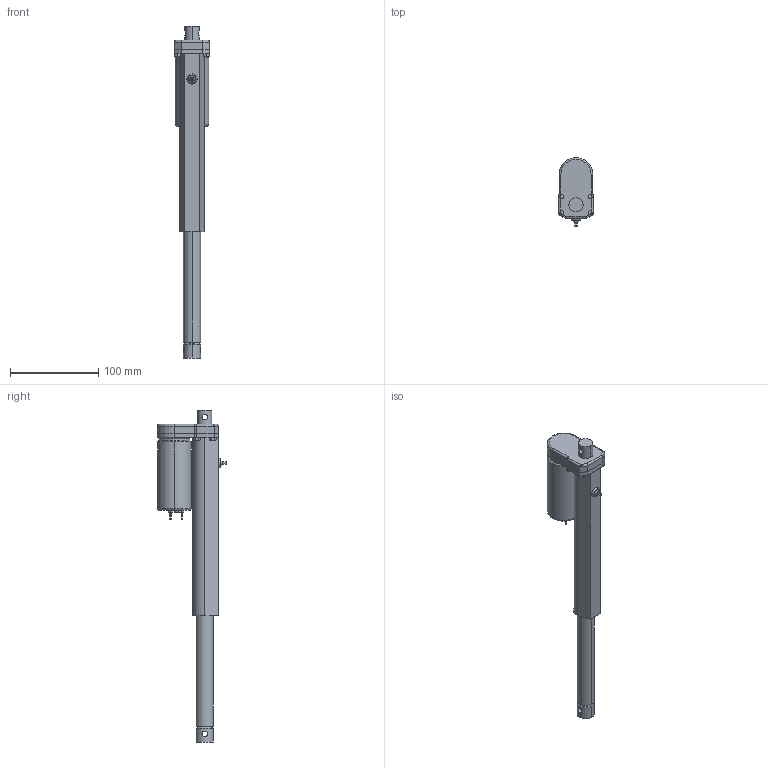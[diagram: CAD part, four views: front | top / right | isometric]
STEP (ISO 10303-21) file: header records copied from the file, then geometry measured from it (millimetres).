
FILE_DESCRIPTION (( 'STEP AP203' ), '1' );
FILE_NAME ('Electrak-LA1-S-05-Tollo.step', '2004-05-12T12:42:33', ( 'Jimmy Richardsson' ), ( 'Cevican AB' ), 'SwSTEP 2.0', 'SolidWorks 2002308', '' );
FILE_SCHEMA (( 'CONFIG_CONTROL_DESIGN' ));
Length unit declared in the file: millimetre
Products named in the file (7): Electrak-LA1-S-05-Tollo; Electrak-LA1-S-House-Tollo_Electrak-LA1-S-House-05-Tollo; Electrak-LA1-S-Rear-Tollo_Electrak-Cover-Tube-Tollo; Electrak-LA1-S-Motor-Tollo_Electrak-Cover-Tube-Tollo; Electrak-LA1-S-Tube-Tollo_Electrak-LA1-S-Tube-05-Tollo; Screw-M6S-M4_Screw-M6S-M4x12H; Electrak-LA1-S-Rod-Tollo_Electrak-LA1-S-Rod-05-Tollo
Assembly tree (9 placements, depth 3):
  Electrak-LA1-S-05-Tollo
    Electrak-LA1-S-House-Tollo_Electrak-LA1-S-House-05-Tollo
      Electrak-LA1-S-Rear-Tollo_Electrak-Cover-Tube-Tollo
      Screw-M6S-M4_Screw-M6S-M4x12H  x4
      Electrak-LA1-S-Motor-Tollo_Electrak-Cover-Tube-Tollo
      Electrak-LA1-S-Tube-Tollo_Electrak-LA1-S-Tube-05-Tollo
    Electrak-LA1-S-Rod-Tollo_Electrak-LA1-S-Rod-05-Tollo
Bounding box: 40 x 78 x 375.8 mm (x, y, z)
Volume: 252465.5 mm3; surface area: 68723.6 mm2
Topology: 8 solids, 8 shells, 239 faces, 545 edges, 342 vertices
Faces by surface type: cylinder 112, plane 78, cone 44, torus 5
Entity records: 5235 total; most frequent: CARTESIAN_POINT 1015, DIRECTION 780, ORIENTED_EDGE 658, EDGE_CURVE 329, AXIS2_PLACEMENT_3D 312, VERTEX_POINT 207, EDGE_LOOP 174, LINE 156
